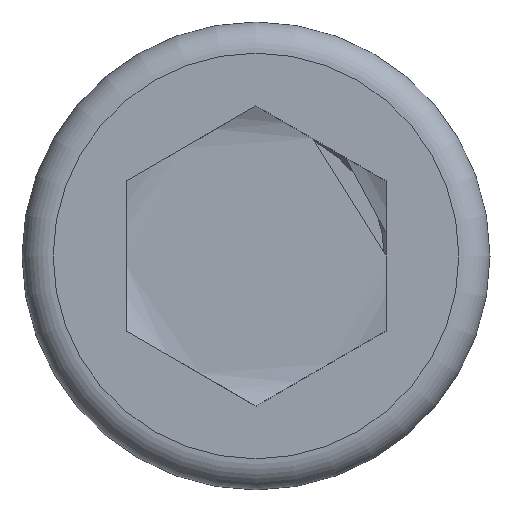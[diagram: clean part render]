
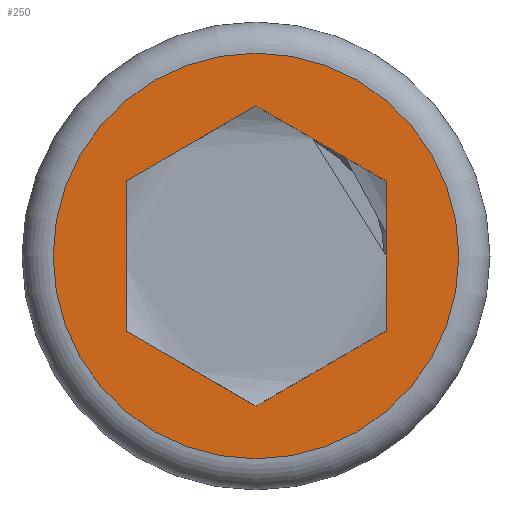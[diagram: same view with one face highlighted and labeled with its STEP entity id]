
A CAD part, left-side view. The second image highlights one B-rep face of the part: STEP entity #250.
In plain terms, the highlighted planar face has unit normal (-1, 0, 0).
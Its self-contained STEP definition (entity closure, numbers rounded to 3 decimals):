
#25=FACE_BOUND('',#92,.T.);
#28=PLANE('',#300);
#37=LINE('',#415,#53);
#38=LINE('',#417,#54);
#39=LINE('',#419,#55);
#40=LINE('',#421,#56);
#41=LINE('',#423,#57);
#42=LINE('',#424,#58);
#53=VECTOR('',#351,10.);
#54=VECTOR('',#352,10.);
#55=VECTOR('',#353,10.);
#56=VECTOR('',#354,10.);
#57=VECTOR('',#355,10.);
#58=VECTOR('',#356,10.);
#75=FACE_OUTER_BOUND('',#91,.T.);
#91=EDGE_LOOP('',(#196));
#92=EDGE_LOOP('',(#197,#198,#199,#200,#201,#202));
#112=CIRCLE('',#299,7.8);
#122=VERTEX_POINT('',#409);
#123=VERTEX_POINT('',#413);
#124=VERTEX_POINT('',#414);
#125=VERTEX_POINT('',#416);
#126=VERTEX_POINT('',#418);
#127=VERTEX_POINT('',#420);
#128=VERTEX_POINT('',#422);
#150=EDGE_CURVE('',#122,#122,#112,.T.);
#151=EDGE_CURVE('',#123,#124,#37,.T.);
#152=EDGE_CURVE('',#124,#125,#38,.T.);
#153=EDGE_CURVE('',#125,#126,#39,.T.);
#154=EDGE_CURVE('',#126,#127,#40,.T.);
#155=EDGE_CURVE('',#127,#128,#41,.T.);
#156=EDGE_CURVE('',#128,#123,#42,.T.);
#196=ORIENTED_EDGE('',*,*,#150,.F.);
#197=ORIENTED_EDGE('',*,*,#151,.T.);
#198=ORIENTED_EDGE('',*,*,#152,.T.);
#199=ORIENTED_EDGE('',*,*,#153,.T.);
#200=ORIENTED_EDGE('',*,*,#154,.T.);
#201=ORIENTED_EDGE('',*,*,#155,.T.);
#202=ORIENTED_EDGE('',*,*,#156,.T.);
#250=ADVANCED_FACE('',(#75,#25),#28,.T.);
#299=AXIS2_PLACEMENT_3D('',#411,#347,#348);
#300=AXIS2_PLACEMENT_3D('',#412,#349,#350);
#347=DIRECTION('center_axis',(1.,0.,0.));
#348=DIRECTION('ref_axis',(0.,-1.,0.));
#349=DIRECTION('center_axis',(-1.,0.,0.));
#350=DIRECTION('ref_axis',(0.,0.,1.));
#351=DIRECTION('',(0.,0.,1.));
#352=DIRECTION('',(0.,-0.866,0.5));
#353=DIRECTION('',(0.,-0.866,-0.5));
#354=DIRECTION('',(0.,0.,-1.));
#355=DIRECTION('',(0.,0.866,-0.5));
#356=DIRECTION('',(0.,0.866,0.5));
#409=CARTESIAN_POINT('',(-12.,0.,7.8));
#411=CARTESIAN_POINT('Origin',(-12.,0.,0.));
#412=CARTESIAN_POINT('Origin',(-12.,7.387,0.));
#413=CARTESIAN_POINT('',(-12.,5.,-2.887));
#414=CARTESIAN_POINT('',(-12.,5.,2.887));
#415=CARTESIAN_POINT('',(-12.,5.,1.443));
#416=CARTESIAN_POINT('',(-12.,0.,5.774));
#417=CARTESIAN_POINT('',(-12.,1.25,5.052));
#418=CARTESIAN_POINT('',(-12.,-5.,2.887));
#419=CARTESIAN_POINT('',(-12.,-3.75,3.608));
#420=CARTESIAN_POINT('',(-12.,-5.,-2.887));
#421=CARTESIAN_POINT('',(-12.,-5.,-1.443));
#422=CARTESIAN_POINT('',(-12.,0.,-5.774));
#423=CARTESIAN_POINT('',(-12.,-1.25,-5.052));
#424=CARTESIAN_POINT('',(-12.,3.75,-3.608));
